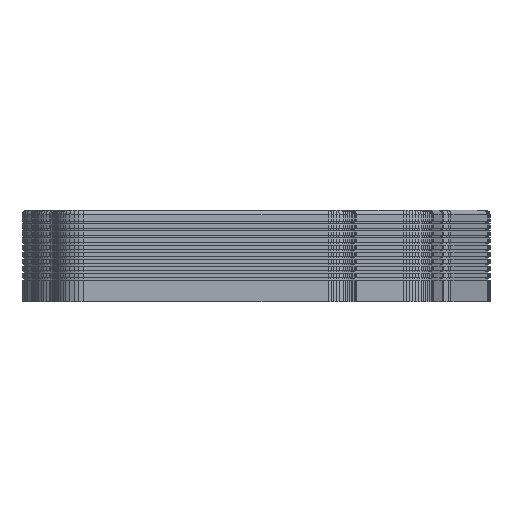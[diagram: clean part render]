
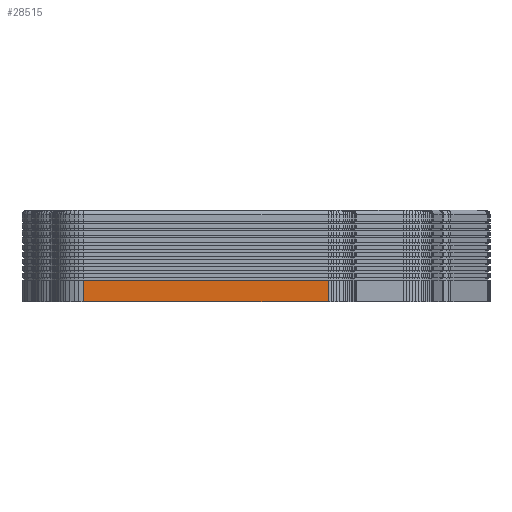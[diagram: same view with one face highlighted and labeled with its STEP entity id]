
A CAD part, left-side view. The second image highlights one B-rep face of the part: STEP entity #28515.
In plain terms, the highlighted planar face has unit normal (-1, 0, 0).
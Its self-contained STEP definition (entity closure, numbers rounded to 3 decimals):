
#44 = PLANE('',#45);
#45 = AXIS2_PLACEMENT_3D('',#46,#47,#48);
#46 = CARTESIAN_POINT('',(65.902,-25.832,-1.));
#47 = DIRECTION('',(0.,0.,1.));
#48 = DIRECTION('',(1.,0.,-0.));
#100 = PLANE('',#101);
#101 = AXIS2_PLACEMENT_3D('',#102,#103,#104);
#102 = CARTESIAN_POINT('',(65.902,-25.832,
    3.923));
#103 = DIRECTION('',(0.,0.,1.));
#104 = DIRECTION('',(1.,0.,-0.));
#5066 = VERTEX_POINT('',#5067);
#5067 = CARTESIAN_POINT('',(-15.424,8.601,-1.));
#5081 = PLANE('',#5082);
#5082 = AXIS2_PLACEMENT_3D('',#5083,#5084,#5085);
#5083 = CARTESIAN_POINT('',(-15.328,9.67,-1.));
#5084 = DIRECTION('',(0.996,-0.09,0.));
#5085 = DIRECTION('',(-0.09,-0.996,0.));
#5093 = EDGE_CURVE('',#5066,#5094,#5096,.T.);
#5094 = VERTEX_POINT('',#5095);
#5095 = CARTESIAN_POINT('',(-15.402,-47.167,-1.));
#5096 = SURFACE_CURVE('',#5097,(#5101,#5108),.PCURVE_S1.);
#5097 = LINE('',#5098,#5099);
#5098 = CARTESIAN_POINT('',(-15.424,8.601,-1.));
#5099 = VECTOR('',#5100,1.);
#5100 = DIRECTION('',(0.,-1.,0.));
#5101 = PCURVE('',#44,#5102);
#5102 = DEFINITIONAL_REPRESENTATION('',(#5103),#5107);
#5103 = LINE('',#5104,#5105);
#5104 = CARTESIAN_POINT('',(-81.326,34.433));
#5105 = VECTOR('',#5106,1.);
#5106 = DIRECTION('',(0.,-1.));
#5107 = ( GEOMETRIC_REPRESENTATION_CONTEXT(2) 
PARAMETRIC_REPRESENTATION_CONTEXT() REPRESENTATION_CONTEXT('2D SPACE',''
  ) );
#5108 = PCURVE('',#5109,#5114);
#5109 = PLANE('',#5110);
#5110 = AXIS2_PLACEMENT_3D('',#5111,#5112,#5113);
#5111 = CARTESIAN_POINT('',(-15.424,8.601,-1.));
#5112 = DIRECTION('',(1.,0.,-0.));
#5113 = DIRECTION('',(0.,-1.,0.));
#5114 = DEFINITIONAL_REPRESENTATION('',(#5115),#5119);
#5115 = LINE('',#5116,#5117);
#5116 = CARTESIAN_POINT('',(0.,0.));
#5117 = VECTOR('',#5118,1.);
#5118 = DIRECTION('',(1.,0.));
#5119 = ( GEOMETRIC_REPRESENTATION_CONTEXT(2) 
PARAMETRIC_REPRESENTATION_CONTEXT() REPRESENTATION_CONTEXT('2D SPACE',''
  ) );
#5137 = PLANE('',#5138);
#5138 = AXIS2_PLACEMENT_3D('',#5139,#5140,#5141);
#5139 = CARTESIAN_POINT('',(-15.402,-47.167,-1.));
#5140 = DIRECTION('',(0.992,0.127,-0.));
#5141 = DIRECTION('',(0.127,-0.992,0.));
#21675 = VERTEX_POINT('',#21676);
#21676 = CARTESIAN_POINT('',(-15.424,8.601,
    3.923));
#21697 = EDGE_CURVE('',#21675,#21698,#21700,.T.);
#21698 = VERTEX_POINT('',#21699);
#21699 = CARTESIAN_POINT('',(-15.402,-47.167,
    3.923));
#21700 = SURFACE_CURVE('',#21701,(#21705,#21712),.PCURVE_S1.);
#21701 = LINE('',#21702,#21703);
#21702 = CARTESIAN_POINT('',(-15.424,8.601,
    3.923));
#21703 = VECTOR('',#21704,1.);
#21704 = DIRECTION('',(0.,-1.,0.));
#21705 = PCURVE('',#100,#21706);
#21706 = DEFINITIONAL_REPRESENTATION('',(#21707),#21711);
#21707 = LINE('',#21708,#21709);
#21708 = CARTESIAN_POINT('',(-81.326,34.433));
#21709 = VECTOR('',#21710,1.);
#21710 = DIRECTION('',(0.,-1.));
#21711 = ( GEOMETRIC_REPRESENTATION_CONTEXT(2) 
PARAMETRIC_REPRESENTATION_CONTEXT() REPRESENTATION_CONTEXT('2D SPACE',''
  ) );
#21712 = PCURVE('',#5109,#21713);
#21713 = DEFINITIONAL_REPRESENTATION('',(#21714),#21718);
#21714 = LINE('',#21715,#21716);
#21715 = CARTESIAN_POINT('',(0.,-4.923));
#21716 = VECTOR('',#21717,1.);
#21717 = DIRECTION('',(1.,0.));
#21718 = ( GEOMETRIC_REPRESENTATION_CONTEXT(2) 
PARAMETRIC_REPRESENTATION_CONTEXT() REPRESENTATION_CONTEXT('2D SPACE',''
  ) );
#28466 = EDGE_CURVE('',#5094,#21698,#28467,.T.);
#28467 = SURFACE_CURVE('',#28468,(#28472,#28479),.PCURVE_S1.);
#28468 = LINE('',#28469,#28470);
#28469 = CARTESIAN_POINT('',(-15.402,-47.167,-1.));
#28470 = VECTOR('',#28471,1.);
#28471 = DIRECTION('',(0.,0.,1.));
#28472 = PCURVE('',#5137,#28473);
#28473 = DEFINITIONAL_REPRESENTATION('',(#28474),#28478);
#28474 = LINE('',#28475,#28476);
#28475 = CARTESIAN_POINT('',(0.,0.));
#28476 = VECTOR('',#28477,1.);
#28477 = DIRECTION('',(0.,-1.));
#28478 = ( GEOMETRIC_REPRESENTATION_CONTEXT(2) 
PARAMETRIC_REPRESENTATION_CONTEXT() REPRESENTATION_CONTEXT('2D SPACE',''
  ) );
#28479 = PCURVE('',#5109,#28480);
#28480 = DEFINITIONAL_REPRESENTATION('',(#28481),#28485);
#28481 = LINE('',#28482,#28483);
#28482 = CARTESIAN_POINT('',(55.768,0.));
#28483 = VECTOR('',#28484,1.);
#28484 = DIRECTION('',(0.,-1.));
#28485 = ( GEOMETRIC_REPRESENTATION_CONTEXT(2) 
PARAMETRIC_REPRESENTATION_CONTEXT() REPRESENTATION_CONTEXT('2D SPACE',''
  ) );
#28515 = ADVANCED_FACE('',(#28516),#5109,.F.);
#28516 = FACE_BOUND('',#28517,.F.);
#28517 = EDGE_LOOP('',(#28518,#28519,#28540,#28541));
#28518 = ORIENTED_EDGE('',*,*,#5093,.F.);
#28519 = ORIENTED_EDGE('',*,*,#28520,.T.);
#28520 = EDGE_CURVE('',#5066,#21675,#28521,.T.);
#28521 = SURFACE_CURVE('',#28522,(#28526,#28533),.PCURVE_S1.);
#28522 = LINE('',#28523,#28524);
#28523 = CARTESIAN_POINT('',(-15.424,8.601,-1.));
#28524 = VECTOR('',#28525,1.);
#28525 = DIRECTION('',(0.,0.,1.));
#28526 = PCURVE('',#5109,#28527);
#28527 = DEFINITIONAL_REPRESENTATION('',(#28528),#28532);
#28528 = LINE('',#28529,#28530);
#28529 = CARTESIAN_POINT('',(0.,0.));
#28530 = VECTOR('',#28531,1.);
#28531 = DIRECTION('',(0.,-1.));
#28532 = ( GEOMETRIC_REPRESENTATION_CONTEXT(2) 
PARAMETRIC_REPRESENTATION_CONTEXT() REPRESENTATION_CONTEXT('2D SPACE',''
  ) );
#28533 = PCURVE('',#5081,#28534);
#28534 = DEFINITIONAL_REPRESENTATION('',(#28535),#28539);
#28535 = LINE('',#28536,#28537);
#28536 = CARTESIAN_POINT('',(1.074,0.));
#28537 = VECTOR('',#28538,1.);
#28538 = DIRECTION('',(0.,-1.));
#28539 = ( GEOMETRIC_REPRESENTATION_CONTEXT(2) 
PARAMETRIC_REPRESENTATION_CONTEXT() REPRESENTATION_CONTEXT('2D SPACE',''
  ) );
#28540 = ORIENTED_EDGE('',*,*,#21697,.T.);
#28541 = ORIENTED_EDGE('',*,*,#28466,.F.);
